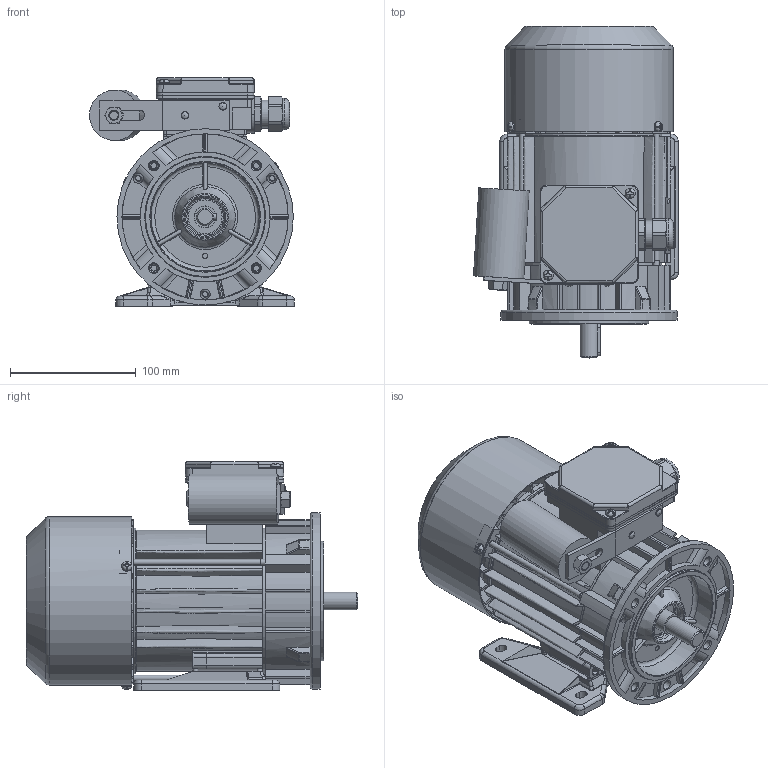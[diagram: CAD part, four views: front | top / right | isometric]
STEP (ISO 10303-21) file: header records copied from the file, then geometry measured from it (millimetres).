
FILE_DESCRIPTION(/* description */ ('Unknown'),/* implementation_level */ '2;1');
FILE_NAME(/* name */ '3SSIEL71-2B1',/* time_stamp */ '2024-06-28T13:11:18+02:00',/* author */ ('Unknown'),/* organization */ ('Unknown'),/* preprocessor_version */ 'ST-DEVELOPER v16.7',/* originating_system */ 'Solid Edge',/* authorisation */ 'Unknown');
FILE_SCHEMA (('AUTOMOTIVE_DESIGN {1 0 10303 214 3 1 1}'));
Length unit declared in the file: millimetre
Products named in the file (26): SELh71-C1; K1-1194 Kad³ub z zamkami Sh71-.C; K3-6469 Tarcza 這篡skowa P S(E,M)h71-B,C; skrznka zaciskowa jednofazowa ; K2-1131 Podstawa skrzynki zaciskowej jednofazowa; K4-2820 Uszczelka nr 2 Sh71,80; K2-0860 Pokrywka skrzynki zaciskowej; D³awnica M20x1,5; K4-0898 Tulejka uszczelniaj¹ca; nakrêtka M8; Nit 4x12 po skróceniu; Wkrêt samogwintuj¹cy M4x16; K4-2999 Uchwyt kondensatora; K4-2320 Uszczelka nr 1 Sh71,80; Wkrêt samogwintuj¹cy M4x8; K1-1246 Tarcza ko³nierzowa B14_1 w.m. 71; Œruba œci¹gaj¹ca E_M5x130; Wpust A5x5x25; Nitoko³ek A 2x6; £o¿ysko 6203; k3-4489 Wa³ SKh71 x-2C1; Kondensator zb 11-16uF Comar; K3-3984 Przewietrznik Sh71; K3-2975 Os³ona przewietrznika Sh71-.B,C; Tabliczka znamionowa 32x44; K1-0448 ｣apa Sh71-.. 
Assembly tree (35 placements, depth 3):
  SELh71-C1
    K1-1194 Kad³ub z zamkami Sh71-.C
    K3-6469 Tarcza 這篡skowa P S(E,M)h71-B,C
    skrznka zaciskowa jednofazowa 
      K2-1131 Podstawa skrzynki zaciskowej jednofazowa
      K4-2820 Uszczelka nr 2 Sh71,80
      K2-0860 Pokrywka skrzynki zaciskowej
      D³awnica M20x1,5
      K4-0898 Tulejka uszczelniaj¹ca
      nakrêtka M8
      Nit 4x12 po skróceniu  x2
      Wkrêt samogwintuj¹cy M4x16  x2
      K4-2999 Uchwyt kondensatora
    K4-2320 Uszczelka nr 1 Sh71,80
    Wkrêt samogwintuj¹cy M4x8  x3
    K1-1246 Tarcza ko³nierzowa B14_1 w.m. 71
    Œruba œci¹gaj¹ca E_M5x130  x3
    Wpust A5x5x25
    Nitoko³ek A 2x6  x2
    £o¿ysko 6203  x2
    k3-4489 Wa³ SKh71 x-2C1
    Wkrêt samogwintuj¹cy M4x16  x2
    Kondensator zb 11-16uF Comar
    K3-3984 Przewietrznik Sh71
    K3-2975 Os³ona przewietrznika Sh71-.B,C
    Tabliczka znamionowa 32x44
    K1-0448 ｣apa Sh71-.. 
Bounding box: 162.77 x 263.5 x 181.5 mm (x, y, z)
Volume: 879563.3 mm3; surface area: 508892.3 mm2
Topology: 52 solids, 68 shells, 2828 faces, 7611 edges, 4869 vertices
Faces by surface type: plane 1178, cylinder 805, bspline 386, torus 214, cone 193, sphere 52
Full cylindrical faces by diameter (mm): 2 x2, 2.4 x2, 3 x1, 3.7 x7, 3.8 x4, 4 x10, 4.134 x3, 4.3 x2, 4.5 x3, 4.6 x3, 4.8 x4, 5 x7, 5.5 x3, 5.8 x4, 6 x2, 6.5 x1, 6.647 x1, 6.8 x4, 7 x1, 8 x12, 10 x2, 14 x1, 15.9 x1, 16.1 x1, 16.5 x1, 17 x4, 17.4 x2, 18.376 x1, 18.38 x1, 20 x1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
Entity records: 94945 total; most frequent: CARTESIAN_POINT 28912, ORIENTED_EDGE 13278, DIRECTION 12038, EDGE_CURVE 6639, AXIS2_PLACEMENT_3D 4592, VERTEX_POINT 4387, FACE_BOUND 3084, EDGE_LOOP 3061
